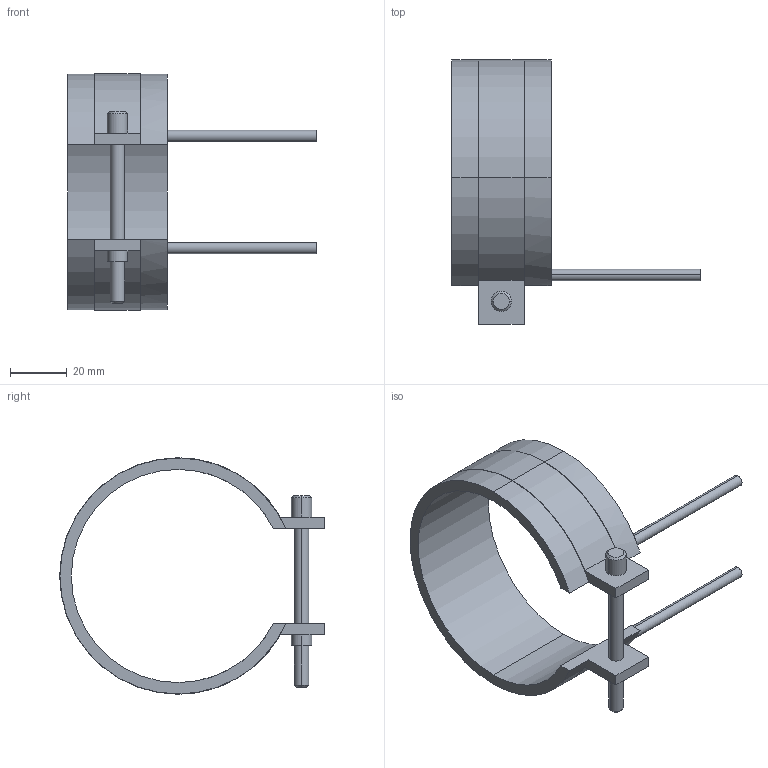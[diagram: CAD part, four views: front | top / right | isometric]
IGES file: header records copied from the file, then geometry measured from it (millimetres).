
Start section: START RECORD GO HERE.
Global section: file name: 14075035.igs; native system: DASSAULT SYSTEMES CATIA V5 R20 - www.3ds.com; preprocessor: CATIA Version 5 Release 20 ; author: Utente; organization: NB04-ASUS; date: 20210403.104443; units: millimetre
Bounding box: 87.5 x 93.1 x 83.2 mm (x, y, z)
Surface area: 20438.3 mm2 (no closed solid volume)
Topology: 0 solids, 0 shells, 45 faces, 232 edges, 232 vertices
Faces by surface type: revolution 28, plane 17
